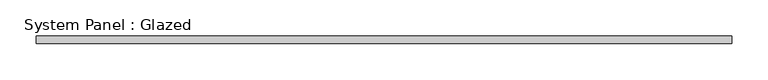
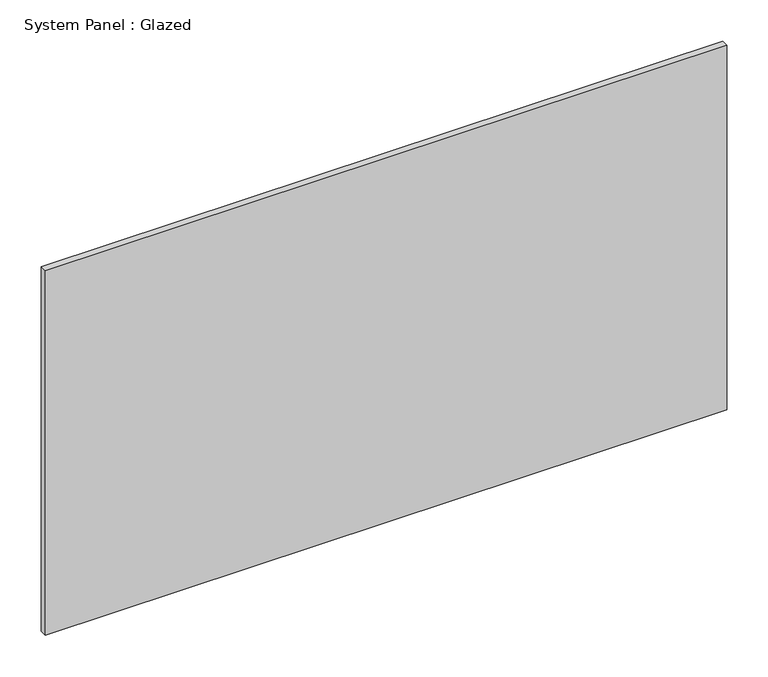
"""IFC4 building model written with IfcOpenShell, lengths in millimetres: plate geometry, System Panel : Glazed."""

from ifc_helpers import new_model, si_unit, origin, origin_with_axes, place, context, project, spatial, polyline, outline, extrude, source, transform, mapped, element, save


def system_panel_glazed_caefc472(model_context):
    return source(origin(), model_context, "Body", "SweptSolid", [
        extrude(outline(polyline([(477.4999768, -5.0), (-477.4999768, -5.0), (-477.4999768, 5.0), (477.4999768, 5.0), (477.4999768, -5.0)])), origin_with_axes(), (0.0, 0.0, 1.0), 540.0),
    ])


if __name__ == "__main__":
    model = new_model("IFC4")
    model_context = context("Model", 3, world=origin())
    ifc_project = project(units=[si_unit("LENGTHUNIT", "METRE", prefix="MILLI")], contexts=[model_context])
    site = spatial("IfcSite", under=ifc_project)
    building = spatial("IfcBuilding", under=site)
    placement = place(None, origin())
    system_panel_glazed_shape = system_panel_glazed_caefc472(model_context)
    element("IfcPlate", 1, ObjectType="System Panel : Glazed", at=placement, inside=building, context=model_context, shape_type="MappedRepresentation", body=[
        mapped(system_panel_glazed_shape, transform((0.0, 0.0, 0.0), x_axis=(1.0, 0.0, 0.0), y_axis=(0.0, 1.0, 0.0), z_axis=(0.0, 0.0, 1.0))),
    ])
    save(model, "model.ifc")
